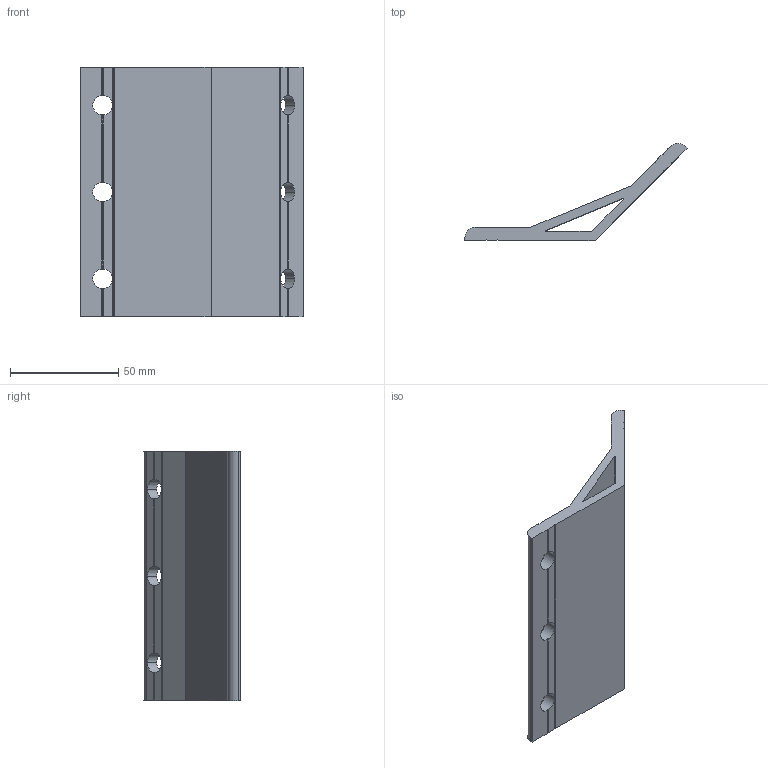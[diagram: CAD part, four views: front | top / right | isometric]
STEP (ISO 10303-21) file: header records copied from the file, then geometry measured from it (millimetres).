
FILE_DESCRIPTION (( 'STEP AP203' ), '1' );
FILE_NAME ('DALV135115-8.STEP', '2020-10-14T02:29:27', ( '' ), ( '' ), 'SwSTEP 2.0', 'SolidWorks 2017', '' );
FILE_SCHEMA (( 'CONFIG_CONTROL_DESIGN' ));
Length unit declared in the file: millimetre
Products named in the file (1): DALV135115-8
Bounding box: 102.43 x 44.58 x 115 mm (x, y, z)
Volume: 87181.5 mm3; surface area: 38797.5 mm2
Topology: 1 solids, 1 shells, 78 faces, 264 edges, 176 vertices
Faces by surface type: plane 60, cylinder 18
Entity records: 2973 total; most frequent: CARTESIAN_POINT 663, ORIENTED_EDGE 528, DIRECTION 434, EDGE_CURVE 264, VERTEX_POINT 176, VECTOR 156, LINE 156, AXIS2_PLACEMENT_3D 139
